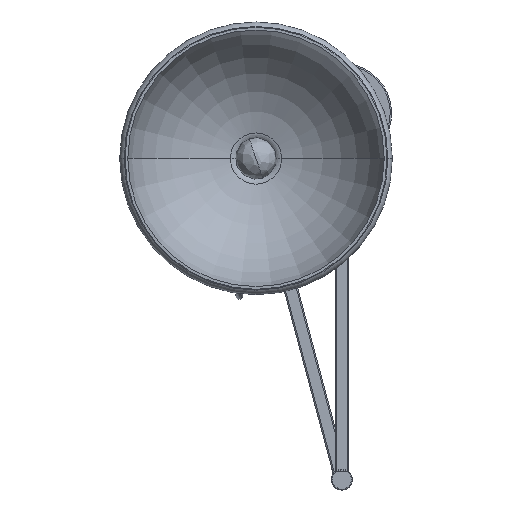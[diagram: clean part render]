
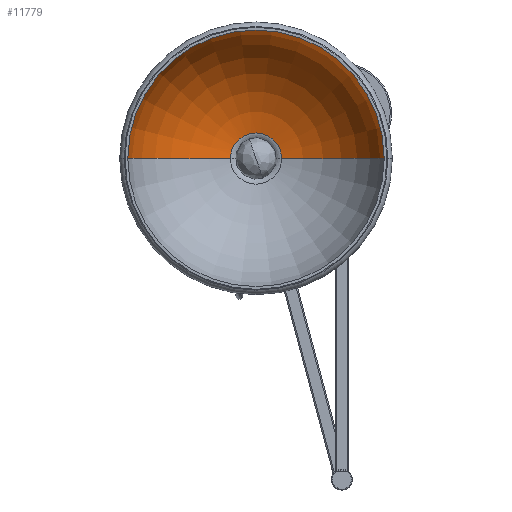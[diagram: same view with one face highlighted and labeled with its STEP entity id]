
A CAD part, top view. The second image highlights one B-rep face of the part: STEP entity #11779.
In plain terms, the highlighted toroidal (fillet/blend) face has major radius 1.67 mm and minor radius 192 mm.
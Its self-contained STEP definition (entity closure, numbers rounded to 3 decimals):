
#62 = DIRECTION ( 'NONE',  ( 0., 0., 1. ) ) ;
#111 = CARTESIAN_POINT ( 'NONE',  ( 0., 62.068, 0. ) ) ;
#241 = CARTESIAN_POINT ( 'NONE',  ( 0., 241.717, 37.023 ) ) ;
#579 = AXIS2_PLACEMENT_3D ( 'NONE', #111, #7378, #1175 ) ;
#1163 = EDGE_CURVE ( 'NONE', #11837, #4897, #8263, .T. ) ;
#1175 = DIRECTION ( 'NONE',  ( 0., 0., -1. ) ) ;
#1734 = EDGE_CURVE ( 'NONE', #11837, #12323, #8101, .T. ) ;
#1776 = VERTEX_POINT ( 'NONE', #6091 ) ;
#1916 = FACE_OUTER_BOUND ( 'NONE', #6839, .T. ) ;
#1948 = CIRCLE ( 'NONE', #579, 193.456 ) ;
#2584 = EDGE_CURVE ( 'NONE', #4897, #1776, #1948, .T. ) ;
#2775 = ORIENTED_EDGE ( 'NONE', *, *, #2584, .T. ) ;
#2913 = CARTESIAN_POINT ( 'NONE',  ( 0., 53., 1.67 ) ) ;
#2949 = AXIS2_PLACEMENT_3D ( 'NONE', #12453, #6303, #62 ) ;
#2983 = ORIENTED_EDGE ( 'NONE', *, *, #1734, .F. ) ;
#2993 = DIRECTION ( 'NONE',  ( 0., -1., 0. ) ) ;
#3468 = ORIENTED_EDGE ( 'NONE', *, *, #1163, .T. ) ;
#3500 = CARTESIAN_POINT ( 'NONE',  ( 0., 241.717, -37.023 ) ) ;
#3965 = DIRECTION ( 'NONE',  ( 0., 0., -1. ) ) ;
#4889 = CARTESIAN_POINT ( 'NONE',  ( 0., 62.068, 193.456 ) ) ;
#4897 = VERTEX_POINT ( 'NONE', #4889 ) ;
#5086 = EDGE_CURVE ( 'NONE', #12323, #1776, #10649, .T. ) ;
#5791 = AXIS2_PLACEMENT_3D ( 'NONE', #2913, #10129, #3965 ) ;
#6091 = CARTESIAN_POINT ( 'NONE',  ( 0., 62.068, -193.456 ) ) ;
#6303 = DIRECTION ( 'NONE',  ( -1., 0., 0. ) ) ;
#6435 = DIRECTION ( 'NONE',  ( 0., -1., 0. ) ) ;
#6839 = EDGE_LOOP ( 'NONE', ( #2983, #3468, #2775, #9543 ) ) ;
#7378 = DIRECTION ( 'NONE',  ( 0., -1., 0. ) ) ;
#8101 = CIRCLE ( 'NONE', #11733, 37.023 ) ;
#8263 = CIRCLE ( 'NONE', #5791, 192. ) ;
#8472 = DIRECTION ( 'NONE',  ( 0., 0., -1. ) ) ;
#9168 = CARTESIAN_POINT ( 'NONE',  ( 0., 241.717, 0. ) ) ;
#9202 = CARTESIAN_POINT ( 'NONE',  ( 0., 53., 0. ) ) ;
#9543 = ORIENTED_EDGE ( 'NONE', *, *, #5086, .F. ) ;
#9822 = TOROIDAL_SURFACE ( 'NONE', #11123, 1.67, 192. ) ;
#10129 = DIRECTION ( 'NONE',  ( 1., 0., 0. ) ) ;
#10207 = DIRECTION ( 'NONE',  ( 0., 0., -1. ) ) ;
#10649 = CIRCLE ( 'NONE', #2949, 192. ) ;
#11123 = AXIS2_PLACEMENT_3D ( 'NONE', #9202, #6435, #8472 ) ;
#11733 = AXIS2_PLACEMENT_3D ( 'NONE', #9168, #2993, #10207 ) ;
#11779 = ADVANCED_FACE ( 'NONE', ( #1916 ), #9822, .F. ) ;
#11837 = VERTEX_POINT ( 'NONE', #241 ) ;
#12323 = VERTEX_POINT ( 'NONE', #3500 ) ;
#12453 = CARTESIAN_POINT ( 'NONE',  ( 0., 53., -1.67 ) ) ;
